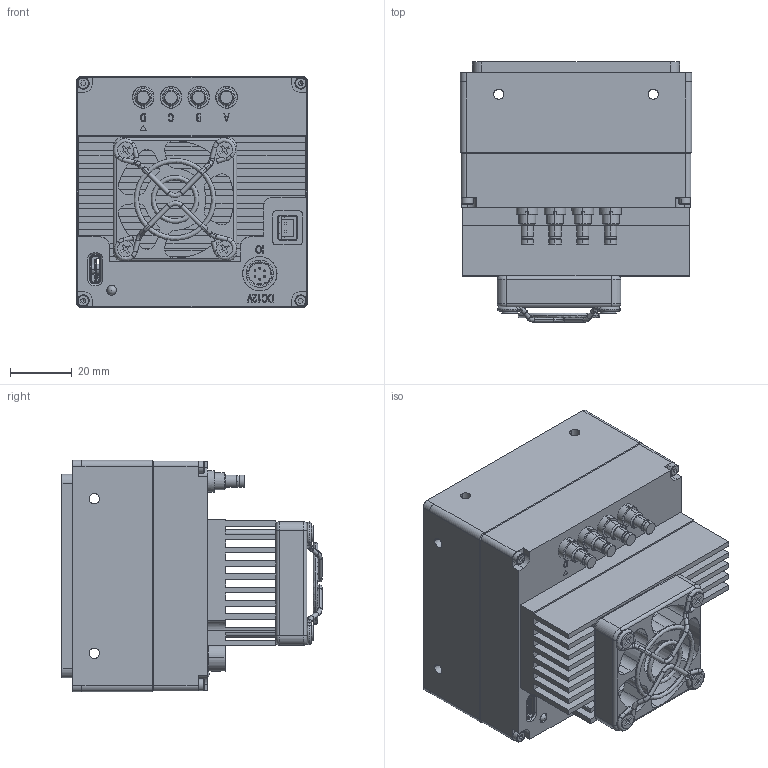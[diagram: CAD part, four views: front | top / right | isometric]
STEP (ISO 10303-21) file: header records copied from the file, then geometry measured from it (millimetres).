
FILE_DESCRIPTION (( 'STEP AP203' ), '1' );
FILE_NAME ('TS65MCXP低速版2.STEP', '2022-10-18T01:06:04', ( '微软用户' ), ( '微软中国' ), 'SwSTEP 2.0', 'SolidWorks 2017', '' );
FILE_SCHEMA (( 'CONFIG_CONTROL_DESIGN' ));
Length unit declared in the file: millimetre
Products named in the file (1): TS65MCXP腴厒唳2
Bounding box: 75 x 84.17 x 75 mm (x, y, z)
Surface area: 58213.1 mm2 (no closed solid volume)
Topology: 0 solids, 72 shells, 793 faces, 2783 edges, 2029 vertices
Faces by surface type: plane 370, cylinder 276, bspline 74, cone 42, torus 24, sphere 7
Entity records: 33294 total; most frequent: CARTESIAN_POINT 9846, DIRECTION 4876, ORIENTED_EDGE 4387, EDGE_CURVE 2764, VERTEX_POINT 2021, VECTOR 1650, LINE 1650, AXIS2_PLACEMENT_3D 1613
